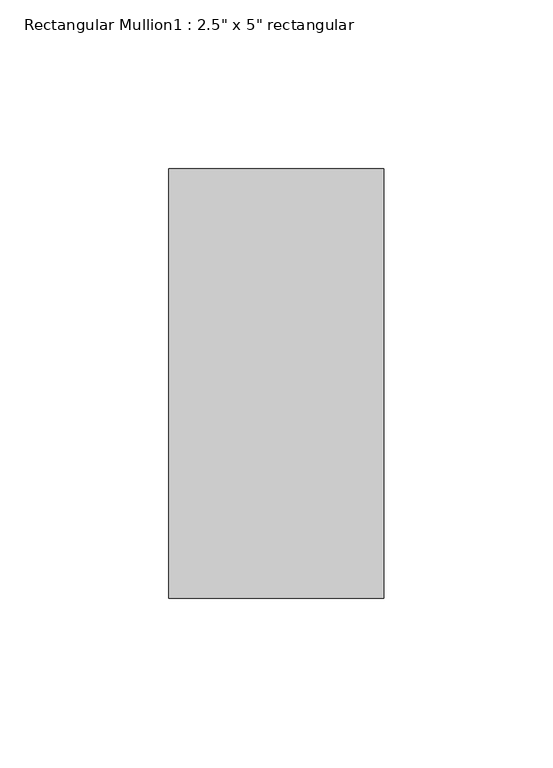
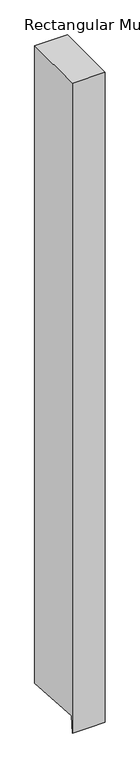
"""IFC4 building model written with IfcOpenShell, lengths in millimetres: member geometry."""

import ifcopenshell
import ifcopenshell.guid

model = None  # the IFC model being written
_history = None  # IfcOwnerHistory: only IFC2X3 demands one
_inside = {}  # id of a spatial element -> (the spatial element, [elements in it])
_under = {}  # id of a project, library or spatial element -> (it, [spatial elements below it])
_declared = {}  # id of a project -> (the project, [libraries it declares])
_typed = {}  # id of a type object -> (the type object, [elements of that type])
_made_of = {}  # id of a material, layer set ... -> (it, [elements and type objects made of it])


def new_model(schema):
    """Start an empty IFC model of exactly this schema.

    Asked for "IFC4X3", IfcOpenShell would pick the latest addendum, in which some entities
    have other attributes; the version numbers below select the first issue.
    IFC2X3 requires an IfcOwnerHistory on every rooted entity: one is made here for all.
    """
    global model, _history
    if schema == "IFC4X3":
        model = ifcopenshell.file(schema_version=(4, 3, 0, 0))
    else:
        model = ifcopenshell.file(schema=schema)
    _inside.clear()
    _under.clear()
    _declared.clear()
    _typed.clear()
    _made_of.clear()
    _history = None
    if model.schema == "IFC2X3":
        org = make("IfcOrganization", Name="unknown")
        user = make(
            "IfcPersonAndOrganization",
            ThePerson=make("IfcPerson", FamilyName="unknown"),
            TheOrganization=org,
        )
        app = make(
            "IfcApplication",
            ApplicationDeveloper=org,
            Version="unknown",
            ApplicationFullName="unknown",
            ApplicationIdentifier="unknown",
        )
        _history = make(
            "IfcOwnerHistory",
            OwningUser=user,
            OwningApplication=app,
            ChangeAction="ADDED",
            CreationDate=0,
        )
    return model


def make(cls, **values):
    """One entity of the class cls with the attributes given. An attribute that is None is left unset."""
    return model.create_entity(
        cls, **{name: value for name, value in values.items() if value is not None}
    )


def rooted(cls, **values):
    """An entity with a GlobalId (a new one), such as an element, a storey or a relation."""
    return make(cls, GlobalId=ifcopenshell.guid.new(), OwnerHistory=_history, **values)


def si_unit(unit_type, name, prefix=None):
    """IfcSIUnit, for example si_unit("LENGTHUNIT", "METRE", prefix="MILLI")."""
    return make("IfcSIUnit", UnitType=unit_type, Prefix=prefix, Name=name)


def assignment(units):
    """IfcUnitAssignment: the units of a project."""
    return None if units is None else make("IfcUnitAssignment", Units=units)


def point(xyz):
    """IfcCartesianPoint."""
    return None if xyz is None else make("IfcCartesianPoint", Coordinates=xyz)


def direction(xyz):
    """IfcDirection."""
    return None if xyz is None else make("IfcDirection", DirectionRatios=xyz)


def frame(location, z_axis=None, x_axis=None):
    """IfcAxis2Placement3D, a coordinate frame: its origin and axes. An axis left out is left unset."""
    return make(
        "IfcAxis2Placement3D",
        Location=point(location),
        Axis=direction(z_axis),
        RefDirection=direction(x_axis),
    )


def origin():
    """The frame at (0, 0, 0) with its axes left unset."""
    return frame((0.0, 0.0, 0.0))


def place(relative_to, where):
    """IfcLocalPlacement: puts the frame where relative to a parent placement (None: the world)."""
    return make(
        "IfcLocalPlacement", PlacementRelTo=relative_to, RelativePlacement=where
    )


def context(
    kind, dimensions, precision=None, world=None, true_north=None, identifier=None
):
    """IfcGeometricRepresentationContext, for example the 3D "Model" context."""
    return make(
        "IfcGeometricRepresentationContext",
        ContextIdentifier=identifier,
        ContextType=kind,
        CoordinateSpaceDimension=dimensions,
        Precision=precision,
        WorldCoordinateSystem=world,
        TrueNorth=true_north,
    )


def project(units=None, contexts=None):
    """IfcProject with its units and contexts."""
    return rooted(
        "IfcProject",
        Name="project",
        RepresentationContexts=contexts,
        UnitsInContext=assignment(units),
    )


def spatial(cls, under=None, at=None, **own):
    """A site, building, storey or space (cls), placed at a placement, below another one or the project."""
    s = rooted(cls, ObjectPlacement=at, **own)
    if under is not None:
        _under.setdefault(under.id(), (under, []))[1].append(s)
    return s


def faces_of(points, faces, orient=None, outer=None):
    """IfcFace entities. A face is a list of loops; a loop is a list of indices into points, from 0.

    orient and outer hold one flag for each loop. By default every Orientation is true, the
    first loop of a face is its IfcFaceOuterBound and the others are IfcFaceBound.
    """
    made = []
    for i, loops in enumerate(faces):
        bounds = []
        for j, loop in enumerate(loops):
            is_outer = j == 0 if outer is None else outer[i][j]
            bounds.append(
                make(
                    "IfcFaceOuterBound" if is_outer else "IfcFaceBound",
                    Bound=make("IfcPolyLoop", Polygon=[points[k] for k in loop]),
                    Orientation=True if orient is None else orient[i][j],
                )
            )
        made.append(make("IfcFace", Bounds=bounds))
    return made


def faceted_brep(points, faces, orient=None, outer=None, voids=None):
    """IfcFacetedBrep: a solid bounded by flat faces; with voids (closed shells), ...WithVoids."""
    shared = [point(p) for p in points]
    hull = make("IfcClosedShell", CfsFaces=faces_of(shared, faces, orient, outer))
    if voids is None:
        return make("IfcFacetedBrep", Outer=hull)
    return make(
        "IfcFacetedBrepWithVoids",
        Outer=hull,
        Voids=[
            make(cls, CfsFaces=faces_of(shared, fs, o, b)) for cls, fs, o, b in voids
        ],
    )


def shape(context_of_items, identifier, shape_type, items):
    """IfcShapeRepresentation: the items that make up one representation, for example the "Body"."""
    return make(
        "IfcShapeRepresentation",
        ContextOfItems=context_of_items,
        RepresentationIdentifier=identifier,
        RepresentationType=shape_type,
        Items=items,
    )


def source(mapping_origin, context_of_items, identifier, shape_type, items):
    """IfcRepresentationMap: a shape defined once, which mapped items show again and again."""
    return make(
        "IfcRepresentationMap",
        MappingOrigin=mapping_origin,
        MappedRepresentation=shape(context_of_items, identifier, shape_type, items),
    )


def transform(
    local_origin,
    x_axis=None,
    y_axis=None,
    z_axis=None,
    scale=None,
    scale2=None,
    scale3=None,
    uniform=True,
):
    """IfcCartesianTransformationOperator3D, or its non-uniform kind. x_axis, y_axis, z_axis: its Axis1, 2, 3."""
    if uniform:
        return make(
            "IfcCartesianTransformationOperator3D",
            Axis1=direction(x_axis),
            Axis2=direction(y_axis),
            LocalOrigin=point(local_origin),
            Scale=scale,
            Axis3=direction(z_axis),
        )
    return make(
        "IfcCartesianTransformationOperator3DnonUniform",
        Axis1=direction(x_axis),
        Axis2=direction(y_axis),
        LocalOrigin=point(local_origin),
        Scale=scale,
        Axis3=direction(z_axis),
        Scale2=scale2,
        Scale3=scale3,
    )


def mapped(mapping_source, mapping_target):
    """IfcMappedItem: shows the shape of a source again, moved by a transform."""
    return make(
        "IfcMappedItem", MappingSource=mapping_source, MappingTarget=mapping_target
    )


def made_of(thing, what):
    """Note that an element or type object is made of a material, layer set ...; save() writes the relation."""
    if what is not None:
        _made_of.setdefault(what.id(), (what, []))[1].append(thing)
    return thing


def element(
    cls,
    number,
    at=None,
    inside=None,
    cuts=None,
    type_object=None,
    material=None,
    context=None,
    identifier="Body",
    shape_type=None,
    held_by="IfcProductDefinitionShape",
    body=None,
    shapes=None,
    **own,
):
    """One element of the class cls, such as IfcWall. Its Tag is "e" and its number.

    at: its placement. inside: the storey or other place that contains it. cuts: it is an
    opening in that element (IfcRelVoidsElement). A single representation is given by context,
    identifier, shape_type and body (its items); several are given by shapes. held_by: the class
    of the entity that holds the representations. save() writes the other relations.
    """
    e = rooted(cls, Tag="e%d" % number, ObjectPlacement=at, **own)
    if body is not None:
        shapes = [shape(context, identifier, shape_type, body)]
    if shapes is not None:
        e.Representation = make(held_by, Representations=shapes)
    if inside is not None:
        _inside.setdefault(inside.id(), (inside, []))[1].append(e)
    if cuts is not None:
        rooted(
            "IfcRelVoidsElement", RelatingBuildingElement=cuts, RelatedOpeningElement=e
        )
    if type_object is not None:
        _typed.setdefault(type_object.id(), (type_object, []))[1].append(e)
    return made_of(e, material)


def aggregate(whole, parts):
    """IfcRelAggregates: a whole, such as a stair, and the parts it consists of."""
    return rooted("IfcRelAggregates", RelatingObject=whole, RelatedObjects=parts)


def save(model, path):
    """Write the relations noted so far, then the file.

    IfcRelAggregates (storeys below a building ...), IfcRelContainedInSpatialStructure (elements
    in a storey), IfcRelDefinesByType, IfcRelAssociatesMaterial and IfcRelDeclares: one each for
    every whole, place, type object, material and project.
    """
    for whole, parts in _under.values():
        aggregate(whole, parts)
    for where, things in _inside.values():
        rooted(
            "IfcRelContainedInSpatialStructure",
            RelatedElements=things,
            RelatingStructure=where,
        )
    for kind, things in _typed.values():
        rooted("IfcRelDefinesByType", RelatedObjects=things, RelatingType=kind)
    for what, things in _made_of.values():
        rooted("IfcRelAssociatesMaterial", RelatedObjects=things, RelatingMaterial=what)
    for by, libraries in _declared.values():
        rooted("IfcRelDeclares", RelatingContext=by, RelatedDefinitions=libraries)
    model.write(path)


def member_25577aa7(model_context):
    return source(origin(), model_context, "Body", "Brep", [
        faceted_brep([(31.75, 63.5, 0.0), (-31.75, 63.5, 0.0), (-31.75, -63.5, 0.0), (31.75, -63.5, 0.0), (31.75, 63.5, -1307.2809876), (0.0, 63.5, -1307.2809876), (-31.75, 63.5, -1307.2809876), (-31.75, -61.0425175, -1298.2675313), (-31.75, -63.5, -1332.2235469), (0.0, -63.5, -1332.2235469), (31.75, -63.5, -1332.2235469), (31.75, -61.0425175, -1298.2675313), (0.0, -61.0425175, -1298.2675313)], [[[0, 1, 2, 3]], [[1, 0, 4, 5, 6]], [[2, 1, 6, 7, 8]], [[3, 2, 8, 9, 10]], [[0, 3, 10, 11, 4]], [[4, 11, 12, 5]], [[11, 10, 9, 12]], [[9, 8, 7, 12]], [[7, 6, 5, 12]]]),
    ])


if __name__ == "__main__":
    model = new_model("IFC4")
    model_context = context("Model", 3, world=origin())
    ifc_project = project(units=[si_unit("LENGTHUNIT", "METRE", prefix="MILLI")], contexts=[model_context])
    site = spatial("IfcSite", under=ifc_project)
    building = spatial("IfcBuilding", under=site)
    placement = place(None, origin())
    member_shape = member_25577aa7(model_context)
    element("IfcMember", 1, ObjectType="Rectangular Mullion1 : 2.5\" x 5\" rectangular", at=placement, inside=building, context=model_context, shape_type="MappedRepresentation", body=[
        mapped(member_shape, transform((0.0, 0.0, 0.0), x_axis=(1.0, 0.0, 0.0), y_axis=(0.0, 1.0, 0.0), z_axis=(0.0, 0.0, 1.0))),
    ])
    save(model, "model.ifc")
